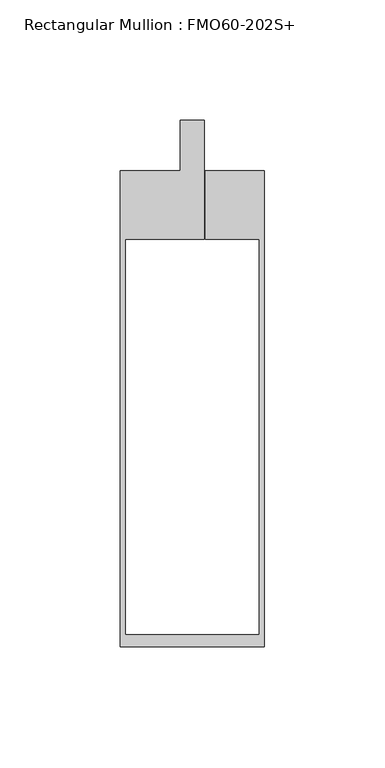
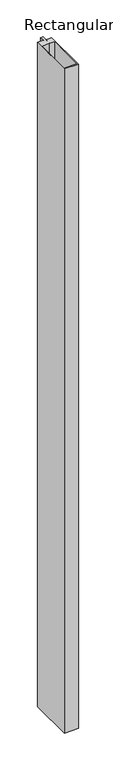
"""IFC4 building model written with IfcOpenShell, lengths in millimetres: member geometry, Rectangular Mullion : FMO60-202S+."""

from ifc_helpers import new_model, si_unit, origin, place, context, project, spatial, faceted_brep, source, transform, mapped, element, save


def rectangular_mullion_fmo60_202s_3de299ea(model_context):
    return source(origin(), model_context, "Body", "Brep", [
        faceted_brep([(-4.9998612, 0.1, 0.0), (-29.996122, 0.1, 0.0), (-29.996122, -197.9044778, 0.0), (30.0001388, -197.9044778, 0.0), (30.0001388, 0.1, 0.0), (5.4998612, 0.1, 0.0), (5.4998612, -28.3988805, 0.0), (27.803878, -28.3988805, 0.0), (27.803878, -192.9044778, 0.0), (-27.7943897, -192.9044778, 0.0), (-27.7943897, -28.4011195, 0.0), (4.9998612, -28.4011195, 0.0), (4.9998612, 21.0914962, 0.0), (-4.9998612, 21.0914866, 0.0), (-4.9998612, 0.1, -3000.0), (-4.9998612, 21.0914866, -3000.0), (4.9998612, 21.0914866, -3000.0), (4.9998612, -28.4011195, -3000.0), (-27.7943897, -28.4011195, -3000.0), (-27.7943897, -192.9044778, -3000.0), (27.803878, -192.9044778, -3000.0), (27.803878, -28.3988805, -3000.0), (5.4998612, -28.3988805, -3000.0), (5.4998612, 0.1, -3000.0), (30.0001388, 0.1, -3000.0), (30.0001388, -197.9044778, -3000.0), (-29.996122, -197.9044778, -3000.0), (-29.996122, 0.1, -3000.0)], [[[0, 1, 2, 3, 4, 5, 6, 7, 8, 9, 10, 11, 12, 13]], [[14, 15, 16, 17, 18, 19, 20, 21, 22, 23, 24, 25, 26, 27]], [[1, 0, 14, 27]], [[2, 1, 27, 26]], [[3, 2, 26, 25]], [[4, 3, 25, 24]], [[5, 4, 24, 23]], [[6, 5, 23, 22]], [[7, 6, 22, 21]], [[8, 7, 21, 20]], [[9, 8, 20, 19]], [[10, 9, 19, 18]], [[11, 10, 18, 17]], [[12, 11, 17, 16]], [[13, 12, 16, 15]], [[0, 13, 15, 14]]]),
    ])


if __name__ == "__main__":
    model = new_model("IFC4")
    model_context = context("Model", 3, world=origin())
    ifc_project = project(units=[si_unit("LENGTHUNIT", "METRE", prefix="MILLI")], contexts=[model_context])
    site = spatial("IfcSite", under=ifc_project)
    building = spatial("IfcBuilding", under=site)
    placement = place(None, origin())
    rectangular_mullion_fmo60_202s_shape = rectangular_mullion_fmo60_202s_3de299ea(model_context)
    element("IfcMember", 1, ObjectType="Rectangular Mullion : FMO60-202S+", at=placement, inside=building, context=model_context, shape_type="MappedRepresentation", body=[
        mapped(rectangular_mullion_fmo60_202s_shape, transform((0.0, 0.0, 0.0), x_axis=(1.0, 0.0, 0.0), y_axis=(0.0, 1.0, 0.0), z_axis=(0.0, 0.0, 1.0))),
    ])
    save(model, "model.ifc")
